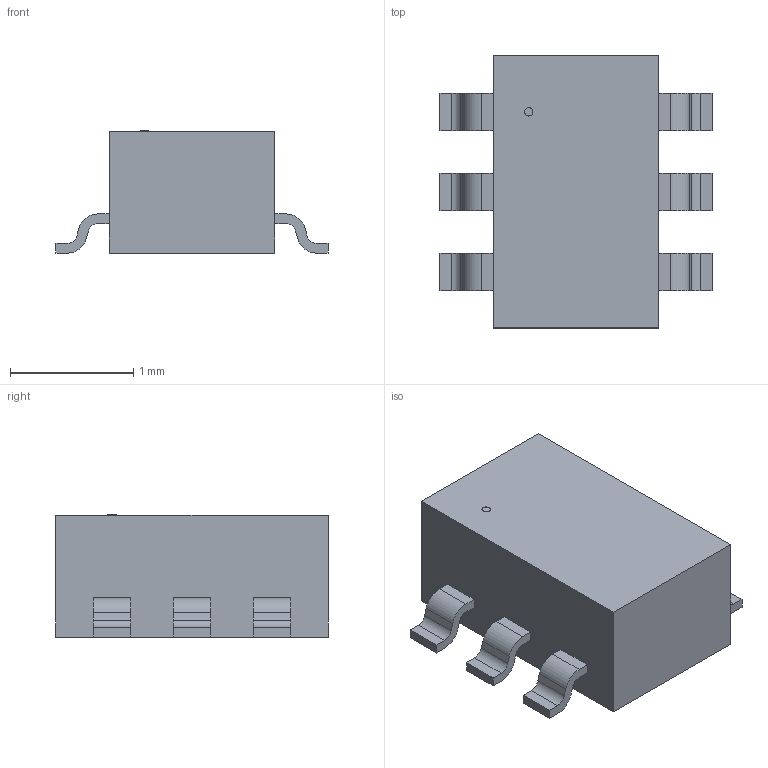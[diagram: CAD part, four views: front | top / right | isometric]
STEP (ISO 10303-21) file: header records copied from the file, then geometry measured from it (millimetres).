
FILE_DESCRIPTION(('STEP AP214'),'1');
FILE_NAME('SOT_906W-7-F_DIO','2023-10-26T06:28:20',(''),(''),'','','');
FILE_SCHEMA(('AUTOMOTIVE_DESIGN'));
Length unit declared in the file: millimetre
Products named in the file (1): product
Bounding box: 2.21 x 2.21 x 0.99 mm (x, y, z)
Volume: 3 mm3; surface area: 15.9 mm2
Topology: 8 solids, 8 shells, 93 faces, 231 edges, 154 vertices
Faces by surface type: plane 68, cylinder 25
Full cylindrical faces by diameter (mm): 0.067 x1
Entity records: 2797 total; most frequent: DIRECTION 470, ORIENTED_EDGE 460, CARTESIAN_POINT 275, EDGE_CURVE 230, LINE 180, VECTOR 180, VERTEX_POINT 154, AXIS2_PLACEMENT_3D 145
